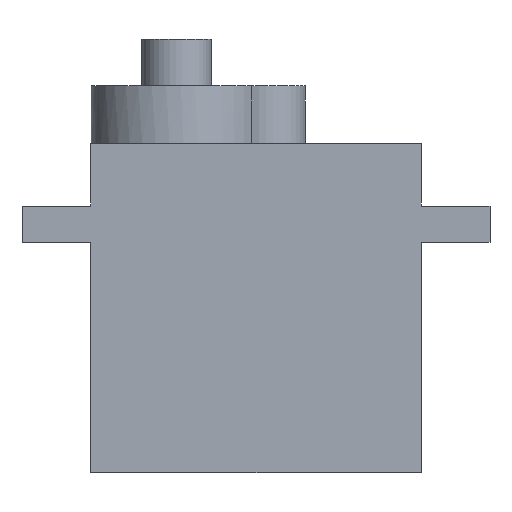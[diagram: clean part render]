
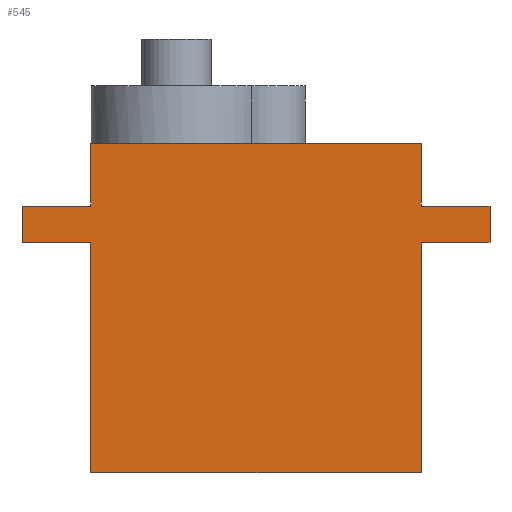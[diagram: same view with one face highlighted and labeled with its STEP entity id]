
A CAD part, front view. The second image highlights one B-rep face of the part: STEP entity #545.
In plain terms, the highlighted planar face has unit normal (0, -1, 0).
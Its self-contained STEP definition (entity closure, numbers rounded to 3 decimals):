
#21 = EDGE_CURVE('',#22,#24,#26,.T.);
#22 = VERTEX_POINT('',#23);
#23 = CARTESIAN_POINT('',(-5.9,-6.15,-22.7));
#24 = VERTEX_POINT('',#25);
#25 = CARTESIAN_POINT('',(-5.9,-6.15,-6.8));
#26 = LINE('',#27,#28);
#27 = CARTESIAN_POINT('',(-5.9,-6.15,-22.7));
#28 = VECTOR('',#29,1.);
#29 = DIRECTION('',(0.,0.,1.));
#70 = VERTEX_POINT('',#71);
#71 = CARTESIAN_POINT('',(-10.65,-6.15,-6.8));
#77 = EDGE_CURVE('',#70,#24,#78,.T.);
#78 = LINE('',#79,#80);
#79 = CARTESIAN_POINT('',(-10.65,-6.15,-6.8));
#80 = VECTOR('',#81,1.);
#81 = DIRECTION('',(1.,0.,-0.));
#104 = EDGE_CURVE('',#22,#105,#107,.T.);
#105 = VERTEX_POINT('',#106);
#106 = CARTESIAN_POINT('',(16.9,-6.15,-22.7));
#107 = LINE('',#108,#109);
#108 = CARTESIAN_POINT('',(-5.9,-6.15,-22.7));
#109 = VECTOR('',#110,1.);
#110 = DIRECTION('',(1.,0.,-0.));
#134 = EDGE_CURVE('',#105,#135,#137,.T.);
#135 = VERTEX_POINT('',#136);
#136 = CARTESIAN_POINT('',(16.9,-6.15,-6.8));
#137 = LINE('',#138,#139);
#138 = CARTESIAN_POINT('',(16.9,-6.15,-22.7));
#139 = VECTOR('',#140,1.);
#140 = DIRECTION('',(0.,0.,1.));
#165 = EDGE_CURVE('',#70,#166,#168,.T.);
#166 = VERTEX_POINT('',#167);
#167 = CARTESIAN_POINT('',(-10.65,-6.15,-4.3));
#168 = LINE('',#169,#170);
#169 = CARTESIAN_POINT('',(-10.65,-6.15,-6.8));
#170 = VECTOR('',#171,1.);
#171 = DIRECTION('',(0.,0.,1.));
#230 = EDGE_CURVE('',#135,#231,#233,.T.);
#231 = VERTEX_POINT('',#232);
#232 = CARTESIAN_POINT('',(21.65,-6.15,-6.8));
#233 = LINE('',#234,#235);
#234 = CARTESIAN_POINT('',(-10.65,-6.15,-6.8));
#235 = VECTOR('',#236,1.);
#236 = DIRECTION('',(1.,0.,-0.));
#272 = EDGE_CURVE('',#166,#273,#275,.T.);
#273 = VERTEX_POINT('',#274);
#274 = CARTESIAN_POINT('',(-5.9,-6.15,-4.3));
#275 = LINE('',#276,#277);
#276 = CARTESIAN_POINT('',(-10.65,-6.15,-4.3));
#277 = VECTOR('',#278,1.);
#278 = DIRECTION('',(1.,0.,-0.));
#297 = EDGE_CURVE('',#231,#298,#300,.T.);
#298 = VERTEX_POINT('',#299);
#299 = CARTESIAN_POINT('',(21.65,-6.15,-4.3));
#300 = LINE('',#301,#302);
#301 = CARTESIAN_POINT('',(21.65,-6.15,-6.8));
#302 = VECTOR('',#303,1.);
#303 = DIRECTION('',(0.,0.,1.));
#362 = VERTEX_POINT('',#363);
#363 = CARTESIAN_POINT('',(16.9,-6.15,-4.3));
#369 = EDGE_CURVE('',#362,#298,#370,.T.);
#370 = LINE('',#371,#372);
#371 = CARTESIAN_POINT('',(-10.65,-6.15,-4.3));
#372 = VECTOR('',#373,1.);
#373 = DIRECTION('',(1.,0.,-0.));
#387 = EDGE_CURVE('',#362,#388,#390,.T.);
#388 = VERTEX_POINT('',#389);
#389 = CARTESIAN_POINT('',(16.9,-6.15,0.));
#390 = LINE('',#391,#392);
#391 = CARTESIAN_POINT('',(16.9,-6.15,-22.7));
#392 = VECTOR('',#393,1.);
#393 = DIRECTION('',(0.,0.,1.));
#419 = VERTEX_POINT('',#420);
#420 = CARTESIAN_POINT('',(-5.9,-6.15,0.));
#428 = EDGE_CURVE('',#419,#388,#429,.T.);
#429 = LINE('',#430,#431);
#430 = CARTESIAN_POINT('',(-5.9,-6.15,0.));
#431 = VECTOR('',#432,1.);
#432 = DIRECTION('',(1.,0.,-0.));
#493 = EDGE_CURVE('',#273,#419,#494,.T.);
#494 = LINE('',#495,#496);
#495 = CARTESIAN_POINT('',(-5.9,-6.15,-22.7));
#496 = VECTOR('',#497,1.);
#497 = DIRECTION('',(0.,0.,1.));
#545 = ADVANCED_FACE('',(#546),#560,.T.);
#546 = FACE_BOUND('',#547,.T.);
#547 = EDGE_LOOP('',(#548,#549,#550,#551,#552,#553,#554,#555,#556,#557,
    #558,#559));
#548 = ORIENTED_EDGE('',*,*,#134,.T.);
#549 = ORIENTED_EDGE('',*,*,#230,.T.);
#550 = ORIENTED_EDGE('',*,*,#297,.T.);
#551 = ORIENTED_EDGE('',*,*,#369,.F.);
#552 = ORIENTED_EDGE('',*,*,#387,.T.);
#553 = ORIENTED_EDGE('',*,*,#428,.F.);
#554 = ORIENTED_EDGE('',*,*,#493,.F.);
#555 = ORIENTED_EDGE('',*,*,#272,.F.);
#556 = ORIENTED_EDGE('',*,*,#165,.F.);
#557 = ORIENTED_EDGE('',*,*,#77,.T.);
#558 = ORIENTED_EDGE('',*,*,#21,.F.);
#559 = ORIENTED_EDGE('',*,*,#104,.T.);
#560 = PLANE('',#561);
#561 = AXIS2_PLACEMENT_3D('',#562,#563,#564);
#562 = CARTESIAN_POINT('',(5.5,-6.15,-10.348));
#563 = DIRECTION('',(-0.,-1.,-0.));
#564 = DIRECTION('',(0.,0.,-1.));
